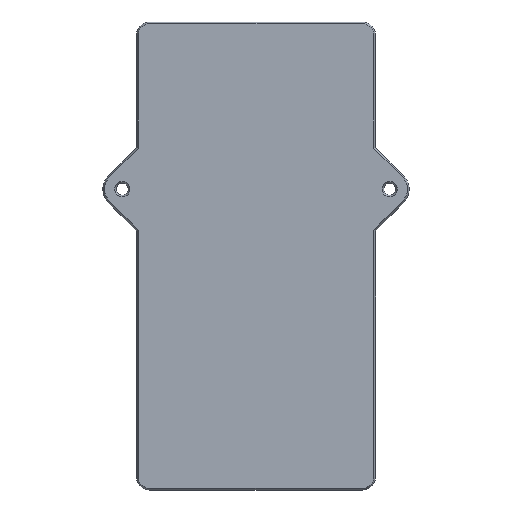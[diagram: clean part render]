
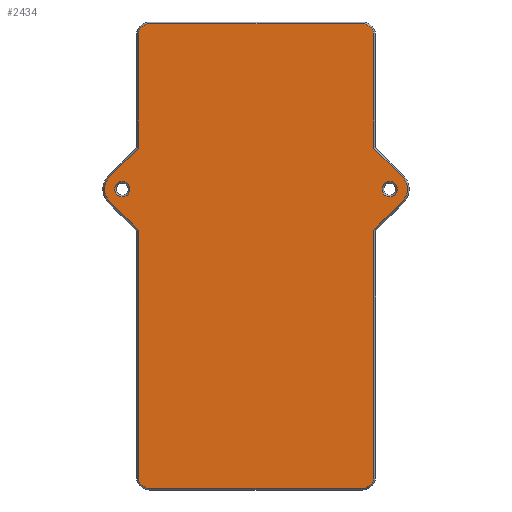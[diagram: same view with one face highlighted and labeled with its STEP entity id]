
A CAD part, front view. The second image highlights one B-rep face of the part: STEP entity #2434.
In plain terms, the highlighted planar face has unit normal (0, -1, 0).
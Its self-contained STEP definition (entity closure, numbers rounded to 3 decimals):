
#1559=CARTESIAN_POINT('Vertex',(31.75,-2.,114.5)) ;
#1573=CARTESIAN_POINT('Vertex',(0.,-2.,114.5)) ;
#1576=CARTESIAN_POINT('Line Origine',(0.,-2.,114.5)) ;
#1683=CARTESIAN_POINT('Vertex',(35.25,-2.,111.)) ;
#1686=CARTESIAN_POINT('Axis2P3D Location',(31.75,-2.,111.)) ;
#1706=CARTESIAN_POINT('Vertex',(35.25,-2.,77.245)) ;
#1716=CARTESIAN_POINT('Line Origine',(35.25,-2.,45.)) ;
#1733=CARTESIAN_POINT('Vertex',(35.25,-2.,52.755)) ;
#1736=CARTESIAN_POINT('Line Origine',(35.25,-2.,45.)) ;
#1740=CARTESIAN_POINT('Vertex',(35.25,-2.,-21.)) ;
#1769=CARTESIAN_POINT('Vertex',(31.75,-2.,-24.5)) ;
#1772=CARTESIAN_POINT('Axis2P3D Location',(31.75,-2.,-21.)) ;
#1793=CARTESIAN_POINT('Vertex',(-31.75,-2.,-24.5)) ;
#1796=CARTESIAN_POINT('Line Origine',(0.,-2.,-24.5)) ;
#1817=CARTESIAN_POINT('Vertex',(-35.25,-2.,-21.)) ;
#1820=CARTESIAN_POINT('Axis2P3D Location',(-31.75,-2.,-21.)) ;
#1837=CARTESIAN_POINT('Line Origine',(-35.25,-2.,45.)) ;
#1841=CARTESIAN_POINT('Vertex',(-35.25,-2.,111.)) ;
#1843=CARTESIAN_POINT('Vertex',(-35.25,-2.,77.245)) ;
#1876=CARTESIAN_POINT('Line Origine',(-35.25,-2.,45.)) ;
#1880=CARTESIAN_POINT('Vertex',(-35.25,-2.,52.755)) ;
#1903=CARTESIAN_POINT('Vertex',(-31.75,-2.,114.5)) ;
#1906=CARTESIAN_POINT('Axis2P3D Location',(-31.75,-2.,111.)) ;
#1928=CARTESIAN_POINT('Line Origine',(0.,-2.,114.5)) ;
#2336=CARTESIAN_POINT('Axis2P3D Location',(34.047,-2.,0.)) ;
#2341=CARTESIAN_POINT('Line Origine',(-39.499,-2.,72.996)) ;
#2345=CARTESIAN_POINT('Vertex',(-43.748,-2.,68.748)) ;
#2348=CARTESIAN_POINT('Axis2P3D Location',(-40.,-2.,65.)) ;
#2352=CARTESIAN_POINT('Vertex',(-43.748,-2.,61.252)) ;
#2355=CARTESIAN_POINT('Line Origine',(-39.499,-2.,57.004)) ;
#2360=CARTESIAN_POINT('Line Origine',(39.499,-2.,57.004)) ;
#2364=CARTESIAN_POINT('Vertex',(43.748,-2.,61.252)) ;
#2367=CARTESIAN_POINT('Axis2P3D Location',(40.,-2.,65.)) ;
#2371=CARTESIAN_POINT('Vertex',(43.748,-2.,68.748)) ;
#2374=CARTESIAN_POINT('Line Origine',(39.499,-2.,72.996)) ;
#2398=CARTESIAN_POINT('Axis2P3D Location',(40.,-2.,65.)) ;
#2402=CARTESIAN_POINT('Vertex',(37.7,-2.,65.)) ;
#2404=CARTESIAN_POINT('Vertex',(42.3,-2.,65.)) ;
#2407=CARTESIAN_POINT('Axis2P3D Location',(40.,-2.,65.)) ;
#2416=CARTESIAN_POINT('Axis2P3D Location',(-40.,-2.,65.)) ;
#2420=CARTESIAN_POINT('Vertex',(-37.7,-2.,65.)) ;
#2422=CARTESIAN_POINT('Vertex',(-42.3,-2.,65.)) ;
#2425=CARTESIAN_POINT('Axis2P3D Location',(-40.,-2.,65.)) ;
#1577=DIRECTION('Vector Direction',(-1.,0.,0.)) ;
#1687=DIRECTION('Axis2P3D Direction',(0.,1.,0.)) ;
#1717=DIRECTION('Vector Direction',(0.,0.,1.)) ;
#1737=DIRECTION('Vector Direction',(0.,0.,1.)) ;
#1773=DIRECTION('Axis2P3D Direction',(0.,1.,0.)) ;
#1797=DIRECTION('Vector Direction',(-1.,0.,0.)) ;
#1821=DIRECTION('Axis2P3D Direction',(0.,1.,0.)) ;
#1838=DIRECTION('Vector Direction',(0.,0.,1.)) ;
#1877=DIRECTION('Vector Direction',(0.,0.,1.)) ;
#1907=DIRECTION('Axis2P3D Direction',(0.,1.,0.)) ;
#1929=DIRECTION('Vector Direction',(-1.,0.,0.)) ;
#2337=DIRECTION('Axis2P3D Direction',(0.,1.,-0.)) ;
#2338=DIRECTION('Axis2P3D XDirection',(-1.,0.,0.)) ;
#2342=DIRECTION('Vector Direction',(0.707,0.,0.707)) ;
#2349=DIRECTION('Axis2P3D Direction',(0.,1.,-0.)) ;
#2356=DIRECTION('Vector Direction',(0.707,0.,-0.707)) ;
#2361=DIRECTION('Vector Direction',(-0.707,0.,-0.707)) ;
#2368=DIRECTION('Axis2P3D Direction',(0.,1.,-0.)) ;
#2375=DIRECTION('Vector Direction',(-0.707,0.,0.707)) ;
#2399=DIRECTION('Axis2P3D Direction',(0.,1.,-0.)) ;
#2408=DIRECTION('Axis2P3D Direction',(0.,1.,-0.)) ;
#2417=DIRECTION('Axis2P3D Direction',(0.,1.,-0.)) ;
#2426=DIRECTION('Axis2P3D Direction',(0.,1.,-0.)) ;
#1688=AXIS2_PLACEMENT_3D('Circle Axis2P3D',#1686,#1687,$) ;
#1774=AXIS2_PLACEMENT_3D('Circle Axis2P3D',#1772,#1773,$) ;
#1822=AXIS2_PLACEMENT_3D('Circle Axis2P3D',#1820,#1821,$) ;
#1908=AXIS2_PLACEMENT_3D('Circle Axis2P3D',#1906,#1907,$) ;
#2339=AXIS2_PLACEMENT_3D('Plane Axis2P3D',#2336,#2337,#2338) ;
#2350=AXIS2_PLACEMENT_3D('Circle Axis2P3D',#2348,#2349,$) ;
#2369=AXIS2_PLACEMENT_3D('Circle Axis2P3D',#2367,#2368,$) ;
#2400=AXIS2_PLACEMENT_3D('Circle Axis2P3D',#2398,#2399,$) ;
#2409=AXIS2_PLACEMENT_3D('Circle Axis2P3D',#2407,#2408,$) ;
#2418=AXIS2_PLACEMENT_3D('Circle Axis2P3D',#2416,#2417,$) ;
#2427=AXIS2_PLACEMENT_3D('Circle Axis2P3D',#2425,#2426,$) ;
#2380=ORIENTED_EDGE('',*,*,#2347,.T.) ;
#2381=ORIENTED_EDGE('',*,*,#2354,.T.) ;
#2382=ORIENTED_EDGE('',*,*,#2359,.T.) ;
#2383=ORIENTED_EDGE('',*,*,#1882,.T.) ;
#2384=ORIENTED_EDGE('',*,*,#1824,.T.) ;
#2385=ORIENTED_EDGE('',*,*,#1800,.T.) ;
#2386=ORIENTED_EDGE('',*,*,#1776,.T.) ;
#2387=ORIENTED_EDGE('',*,*,#1742,.T.) ;
#2388=ORIENTED_EDGE('',*,*,#2366,.T.) ;
#2389=ORIENTED_EDGE('',*,*,#2373,.T.) ;
#2390=ORIENTED_EDGE('',*,*,#2378,.T.) ;
#2391=ORIENTED_EDGE('',*,*,#1720,.T.) ;
#2392=ORIENTED_EDGE('',*,*,#1690,.T.) ;
#2393=ORIENTED_EDGE('',*,*,#1580,.T.) ;
#2394=ORIENTED_EDGE('',*,*,#1932,.T.) ;
#2395=ORIENTED_EDGE('',*,*,#1910,.T.) ;
#2396=ORIENTED_EDGE('',*,*,#1845,.T.) ;
#2413=ORIENTED_EDGE('',*,*,#2406,.F.) ;
#2414=ORIENTED_EDGE('',*,*,#2411,.F.) ;
#2431=ORIENTED_EDGE('',*,*,#2424,.F.) ;
#2432=ORIENTED_EDGE('',*,*,#2429,.F.) ;
#2415=FACE_BOUND('',#2412,.T.) ;
#2433=FACE_BOUND('',#2430,.T.) ;
#1578=VECTOR('Line Direction',#1577,1.) ;
#1718=VECTOR('Line Direction',#1717,1.) ;
#1738=VECTOR('Line Direction',#1737,1.) ;
#1798=VECTOR('Line Direction',#1797,1.) ;
#1839=VECTOR('Line Direction',#1838,1.) ;
#1878=VECTOR('Line Direction',#1877,1.) ;
#1930=VECTOR('Line Direction',#1929,1.) ;
#2343=VECTOR('Line Direction',#2342,1.) ;
#2357=VECTOR('Line Direction',#2356,1.) ;
#2362=VECTOR('Line Direction',#2361,1.) ;
#2376=VECTOR('Line Direction',#2375,1.) ;
#2434=ADVANCED_FACE('PartBody',(#2397,#2415,#2433),#2340,.F.) ;
#1689=CIRCLE('generated circle',#1688,3.5) ;
#1775=CIRCLE('generated circle',#1774,3.5) ;
#1823=CIRCLE('generated circle',#1822,3.5) ;
#1909=CIRCLE('generated circle',#1908,3.5) ;
#2351=CIRCLE('generated circle',#2350,5.3) ;
#2370=CIRCLE('generated circle',#2369,5.3) ;
#2401=CIRCLE('generated circle',#2400,2.3) ;
#2410=CIRCLE('generated circle',#2409,2.3) ;
#2419=CIRCLE('generated circle',#2418,2.3) ;
#2428=CIRCLE('generated circle',#2427,2.3) ;
#1580=EDGE_CURVE('',#1560,#1574,#1579,.T.) ;
#1690=EDGE_CURVE('',#1684,#1560,#1689,.F.) ;
#1720=EDGE_CURVE('',#1707,#1684,#1719,.T.) ;
#1742=EDGE_CURVE('',#1741,#1734,#1739,.T.) ;
#1776=EDGE_CURVE('',#1770,#1741,#1775,.F.) ;
#1800=EDGE_CURVE('',#1794,#1770,#1799,.F.) ;
#1824=EDGE_CURVE('',#1818,#1794,#1823,.F.) ;
#1845=EDGE_CURVE('',#1842,#1844,#1840,.F.) ;
#1882=EDGE_CURVE('',#1881,#1818,#1879,.F.) ;
#1910=EDGE_CURVE('',#1904,#1842,#1909,.F.) ;
#1932=EDGE_CURVE('',#1574,#1904,#1931,.T.) ;
#2347=EDGE_CURVE('',#1844,#2346,#2344,.F.) ;
#2354=EDGE_CURVE('',#2346,#2353,#2351,.F.) ;
#2359=EDGE_CURVE('',#2353,#1881,#2358,.T.) ;
#2366=EDGE_CURVE('',#1734,#2365,#2363,.F.) ;
#2373=EDGE_CURVE('',#2365,#2372,#2370,.F.) ;
#2378=EDGE_CURVE('',#2372,#1707,#2377,.T.) ;
#2406=EDGE_CURVE('',#2403,#2405,#2401,.F.) ;
#2411=EDGE_CURVE('',#2405,#2403,#2410,.F.) ;
#2424=EDGE_CURVE('',#2421,#2423,#2419,.F.) ;
#2429=EDGE_CURVE('',#2423,#2421,#2428,.F.) ;
#2379=EDGE_LOOP('',(#2380,#2381,#2382,#2383,#2384,#2385,#2386,#2387,#2388,#2389,#2390,#2391,#2392,#2393,#2394,#2395,#2396)) ;
#2412=EDGE_LOOP('',(#2413,#2414)) ;
#2430=EDGE_LOOP('',(#2431,#2432)) ;
#2397=FACE_OUTER_BOUND('',#2379,.T.) ;
#1579=LINE('Line',#1576,#1578) ;
#1719=LINE('Line',#1716,#1718) ;
#1739=LINE('Line',#1736,#1738) ;
#1799=LINE('Line',#1796,#1798) ;
#1840=LINE('Line',#1837,#1839) ;
#1879=LINE('Line',#1876,#1878) ;
#1931=LINE('Line',#1928,#1930) ;
#2344=LINE('Line',#2341,#2343) ;
#2358=LINE('Line',#2355,#2357) ;
#2363=LINE('Line',#2360,#2362) ;
#2377=LINE('Line',#2374,#2376) ;
#2340=PLANE('Plane',#2339) ;
#1560=VERTEX_POINT('',#1559) ;
#1574=VERTEX_POINT('',#1573) ;
#1684=VERTEX_POINT('',#1683) ;
#1707=VERTEX_POINT('',#1706) ;
#1734=VERTEX_POINT('',#1733) ;
#1741=VERTEX_POINT('',#1740) ;
#1770=VERTEX_POINT('',#1769) ;
#1794=VERTEX_POINT('',#1793) ;
#1818=VERTEX_POINT('',#1817) ;
#1842=VERTEX_POINT('',#1841) ;
#1844=VERTEX_POINT('',#1843) ;
#1881=VERTEX_POINT('',#1880) ;
#1904=VERTEX_POINT('',#1903) ;
#2346=VERTEX_POINT('',#2345) ;
#2353=VERTEX_POINT('',#2352) ;
#2365=VERTEX_POINT('',#2364) ;
#2372=VERTEX_POINT('',#2371) ;
#2403=VERTEX_POINT('',#2402) ;
#2405=VERTEX_POINT('',#2404) ;
#2421=VERTEX_POINT('',#2420) ;
#2423=VERTEX_POINT('',#2422) ;
